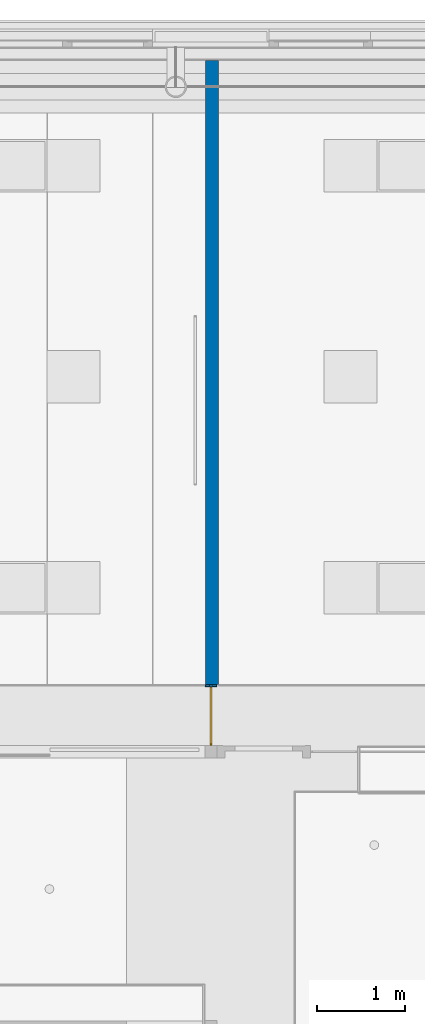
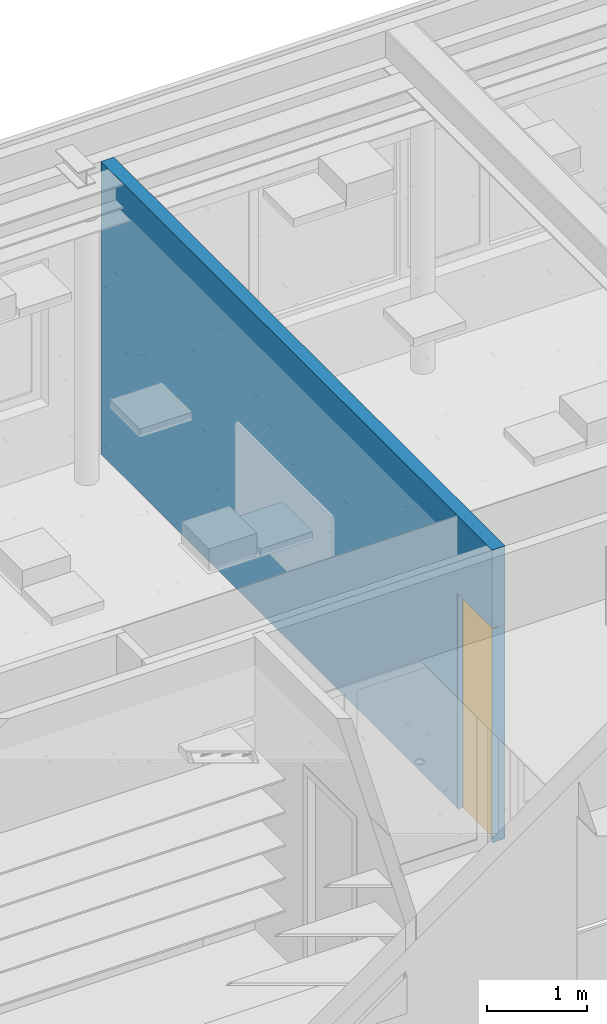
# One storey, part 34 of 260: 2 building element parts, 1 wall, 1 window, 2 openings, 1 element without a shape of its own.
"""IFC2X3 building model written with IfcOpenShell, lengths in millimetres."""

import ifcopenshell
import ifcopenshell.guid

model = None  # the IFC model being written
_history = None  # IfcOwnerHistory: only IFC2X3 demands one
_inside = {}  # id of a spatial element -> (the spatial element, [elements in it])
_under = {}  # id of a project, library or spatial element -> (it, [spatial elements below it])
_declared = {}  # id of a project -> (the project, [libraries it declares])
_typed = {}  # id of a type object -> (the type object, [elements of that type])
_made_of = {}  # id of a material, layer set ... -> (it, [elements and type objects made of it])


def new_model(schema):
    """Start an empty IFC model of exactly this schema.

    Asked for "IFC4X3", IfcOpenShell would pick the latest addendum, in which some entities
    have other attributes; the version numbers below select the first issue.
    IFC2X3 requires an IfcOwnerHistory on every rooted entity: one is made here for all.
    """
    global model, _history
    if schema == "IFC4X3":
        model = ifcopenshell.file(schema_version=(4, 3, 0, 0))
    else:
        model = ifcopenshell.file(schema=schema)
    _inside.clear()
    _under.clear()
    _declared.clear()
    _typed.clear()
    _made_of.clear()
    _history = None
    if model.schema == "IFC2X3":
        org = make("IfcOrganization", Name="unknown")
        user = make(
            "IfcPersonAndOrganization",
            ThePerson=make("IfcPerson", FamilyName="unknown"),
            TheOrganization=org,
        )
        app = make(
            "IfcApplication",
            ApplicationDeveloper=org,
            Version="unknown",
            ApplicationFullName="unknown",
            ApplicationIdentifier="unknown",
        )
        _history = make(
            "IfcOwnerHistory",
            OwningUser=user,
            OwningApplication=app,
            ChangeAction="ADDED",
            CreationDate=0,
        )
    return model


def make(cls, **values):
    """One entity of the class cls with the attributes given. An attribute that is None is left unset."""
    return model.create_entity(
        cls, **{name: value for name, value in values.items() if value is not None}
    )


def entity(cls, *values):
    """Any entity or typed value of the class cls, its attributes in the order of the schema. None: left unset."""
    e = model.create_entity(cls)
    for i, value in enumerate(values):
        if value is not None:
            e[i] = value
    return e


def rooted(cls, **values):
    """An entity with a GlobalId (a new one), such as an element, a storey or a relation."""
    return make(cls, GlobalId=ifcopenshell.guid.new(), OwnerHistory=_history, **values)


def si_unit(unit_type, name, prefix=None):
    """IfcSIUnit, for example si_unit("LENGTHUNIT", "METRE", prefix="MILLI")."""
    return make("IfcSIUnit", UnitType=unit_type, Prefix=prefix, Name=name)


def converted_unit(unit_type, name, factor, base, dimensions=None, offset=None):
    """IfcConversionBasedUnit, such as the inch: factor (a typed value) times the base unit."""
    return make(
        "IfcConversionBasedUnit"
        if offset is None
        else "IfcConversionBasedUnitWithOffset",
        ConversionOffset=offset,
        Dimensions=None
        if dimensions is None
        else entity("IfcDimensionalExponents", *dimensions),
        UnitType=unit_type,
        Name=name,
        ConversionFactor=make(
            "IfcMeasureWithUnit", ValueComponent=factor, UnitComponent=base
        ),
    )


def derived_unit(unit_type, elements):
    """IfcDerivedUnit: a product of units, each with its exponent."""
    return make(
        "IfcDerivedUnit",
        Elements=[
            make("IfcDerivedUnitElement", Unit=unit, Exponent=power)
            for unit, power in elements
        ],
        UnitType=unit_type,
    )


def money_unit(currency):
    """IfcMonetaryUnit."""
    return make("IfcMonetaryUnit", Currency=currency)


def assignment(units):
    """IfcUnitAssignment: the units of a project."""
    return None if units is None else make("IfcUnitAssignment", Units=units)


def point(xyz):
    """IfcCartesianPoint."""
    return None if xyz is None else make("IfcCartesianPoint", Coordinates=xyz)


def direction(xyz):
    """IfcDirection."""
    return None if xyz is None else make("IfcDirection", DirectionRatios=xyz)


def frame(location, z_axis=None, x_axis=None):
    """IfcAxis2Placement3D, a coordinate frame: its origin and axes. An axis left out is left unset."""
    return make(
        "IfcAxis2Placement3D",
        Location=point(location),
        Axis=direction(z_axis),
        RefDirection=direction(x_axis),
    )


def origin_with_axes():
    """The frame at (0, 0, 0) with the z axis (0, 0, 1) and the x axis (1, 0, 0) written out."""
    return frame((0.0, 0.0, 0.0), z_axis=(0.0, 0.0, 1.0), x_axis=(1.0, 0.0, 0.0))


def place(relative_to, where):
    """IfcLocalPlacement: puts the frame where relative to a parent placement (None: the world)."""
    return make(
        "IfcLocalPlacement", PlacementRelTo=relative_to, RelativePlacement=where
    )


def context(
    kind, dimensions, precision=None, world=None, true_north=None, identifier=None
):
    """IfcGeometricRepresentationContext, for example the 3D "Model" context."""
    return make(
        "IfcGeometricRepresentationContext",
        ContextIdentifier=identifier,
        ContextType=kind,
        CoordinateSpaceDimension=dimensions,
        Precision=precision,
        WorldCoordinateSystem=world,
        TrueNorth=true_north,
    )


def subcontext(parent, identifier, kind, view, scale=None):
    """IfcGeometricRepresentationSubContext, for example "Body" below "Model"."""
    return make(
        "IfcGeometricRepresentationSubContext",
        ContextIdentifier=identifier,
        ContextType=kind,
        ParentContext=parent,
        TargetScale=scale,
        TargetView=view,
    )


def project(units=None, contexts=None):
    """IfcProject with its units and contexts."""
    return rooted(
        "IfcProject",
        Name="project",
        RepresentationContexts=contexts,
        UnitsInContext=assignment(units),
    )


def spatial(cls, under=None, at=None, **own):
    """A site, building, storey or space (cls), placed at a placement, below another one or the project."""
    s = rooted(cls, ObjectPlacement=at, **own)
    if under is not None:
        _under.setdefault(under.id(), (under, []))[1].append(s)
    return s


def faces_of(points, faces, orient=None, outer=None):
    """IfcFace entities. A face is a list of loops; a loop is a list of indices into points, from 0.

    orient and outer hold one flag for each loop. By default every Orientation is true, the
    first loop of a face is its IfcFaceOuterBound and the others are IfcFaceBound.
    """
    made = []
    for i, loops in enumerate(faces):
        bounds = []
        for j, loop in enumerate(loops):
            is_outer = j == 0 if outer is None else outer[i][j]
            bounds.append(
                make(
                    "IfcFaceOuterBound" if is_outer else "IfcFaceBound",
                    Bound=make("IfcPolyLoop", Polygon=[points[k] for k in loop]),
                    Orientation=True if orient is None else orient[i][j],
                )
            )
        made.append(make("IfcFace", Bounds=bounds))
    return made


def open_shell(faces, orient=None, outer=None):
    """The faces of one IfcOpenShell. surface_model builds it on its shared points."""
    return ("IfcOpenShell", faces, orient, outer)


def faceted_brep(points, faces, orient=None, outer=None, voids=None):
    """IfcFacetedBrep: a solid bounded by flat faces; with voids (closed shells), ...WithVoids."""
    shared = [point(p) for p in points]
    hull = make("IfcClosedShell", CfsFaces=faces_of(shared, faces, orient, outer))
    if voids is None:
        return make("IfcFacetedBrep", Outer=hull)
    return make(
        "IfcFacetedBrepWithVoids",
        Outer=hull,
        Voids=[
            make(cls, CfsFaces=faces_of(shared, fs, o, b)) for cls, fs, o, b in voids
        ],
    )


def surface_model(cls, points, shells):
    """IfcFaceBasedSurfaceModel or IfcShellBasedSurfaceModel (cls): surfaces that need not close."""
    shared = [point(p) for p in points]
    made = [make(c, CfsFaces=faces_of(shared, fs, o, b)) for c, fs, o, b in shells]
    if cls == "IfcFaceBasedSurfaceModel":
        return make(cls, FbsmFaces=made)
    return make(cls, SbsmBoundary=made)


def shape(context_of_items, identifier, shape_type, items):
    """IfcShapeRepresentation: the items that make up one representation, for example the "Body"."""
    return make(
        "IfcShapeRepresentation",
        ContextOfItems=context_of_items,
        RepresentationIdentifier=identifier,
        RepresentationType=shape_type,
        Items=items,
    )


def source(mapping_origin, context_of_items, identifier, shape_type, items):
    """IfcRepresentationMap: a shape defined once, which mapped items show again and again."""
    return make(
        "IfcRepresentationMap",
        MappingOrigin=mapping_origin,
        MappedRepresentation=shape(context_of_items, identifier, shape_type, items),
    )


def transform(
    local_origin,
    x_axis=None,
    y_axis=None,
    z_axis=None,
    scale=None,
    scale2=None,
    scale3=None,
    uniform=True,
):
    """IfcCartesianTransformationOperator3D, or its non-uniform kind. x_axis, y_axis, z_axis: its Axis1, 2, 3."""
    if uniform:
        return make(
            "IfcCartesianTransformationOperator3D",
            Axis1=direction(x_axis),
            Axis2=direction(y_axis),
            LocalOrigin=point(local_origin),
            Scale=scale,
            Axis3=direction(z_axis),
        )
    return make(
        "IfcCartesianTransformationOperator3DnonUniform",
        Axis1=direction(x_axis),
        Axis2=direction(y_axis),
        LocalOrigin=point(local_origin),
        Scale=scale,
        Axis3=direction(z_axis),
        Scale2=scale2,
        Scale3=scale3,
    )


def mapped(mapping_source, mapping_target):
    """IfcMappedItem: shows the shape of a source again, moved by a transform."""
    return make(
        "IfcMappedItem", MappingSource=mapping_source, MappingTarget=mapping_target
    )


def material(Name=None, Category=None):
    """IfcMaterial."""
    return make("IfcMaterial", Name=Name, Category=Category)


def made_of(thing, what):
    """Note that an element or type object is made of a material, layer set ...; save() writes the relation."""
    if what is not None:
        _made_of.setdefault(what.id(), (what, []))[1].append(thing)
    return thing


def type_object(cls, material=None, **own):
    """A type object (cls), such as IfcWallType, which elements share."""
    return made_of(rooted(cls, **own), material)


def element(
    cls,
    number,
    at=None,
    inside=None,
    cuts=None,
    type_object=None,
    material=None,
    context=None,
    identifier="Body",
    shape_type=None,
    held_by="IfcProductDefinitionShape",
    body=None,
    shapes=None,
    **own,
):
    """One element of the class cls, such as IfcWall. Its Tag is "e" and its number.

    at: its placement. inside: the storey or other place that contains it. cuts: it is an
    opening in that element (IfcRelVoidsElement). A single representation is given by context,
    identifier, shape_type and body (its items); several are given by shapes. held_by: the class
    of the entity that holds the representations. save() writes the other relations.
    """
    e = rooted(cls, Tag="e%d" % number, ObjectPlacement=at, **own)
    if body is not None:
        shapes = [shape(context, identifier, shape_type, body)]
    if shapes is not None:
        e.Representation = make(held_by, Representations=shapes)
    if inside is not None:
        _inside.setdefault(inside.id(), (inside, []))[1].append(e)
    if cuts is not None:
        rooted(
            "IfcRelVoidsElement", RelatingBuildingElement=cuts, RelatedOpeningElement=e
        )
    if type_object is not None:
        _typed.setdefault(type_object.id(), (type_object, []))[1].append(e)
    return made_of(e, material)


def fill(opening, filler):
    """IfcRelFillsElement: the door or window that sits in an opening."""
    return rooted(
        "IfcRelFillsElement",
        RelatingOpeningElement=opening,
        RelatedBuildingElement=filler,
    )


def aggregate(whole, parts):
    """IfcRelAggregates: a whole, such as a stair, and the parts it consists of."""
    return rooted("IfcRelAggregates", RelatingObject=whole, RelatedObjects=parts)


def save(model, path):
    """Write the relations noted so far, then the file.

    IfcRelAggregates (storeys below a building ...), IfcRelContainedInSpatialStructure (elements
    in a storey), IfcRelDefinesByType, IfcRelAssociatesMaterial and IfcRelDeclares: one each for
    every whole, place, type object, material and project.
    """
    for whole, parts in _under.values():
        aggregate(whole, parts)
    for where, things in _inside.values():
        rooted(
            "IfcRelContainedInSpatialStructure",
            RelatedElements=things,
            RelatingStructure=where,
        )
    for kind, things in _typed.values():
        rooted("IfcRelDefinesByType", RelatedObjects=things, RelatingType=kind)
    for what, things in _made_of.values():
        rooted("IfcRelAssociatesMaterial", RelatedObjects=things, RelatingMaterial=what)
    for by, libraries in _declared.values():
        rooted("IfcRelDeclares", RelatingContext=by, RelatedDefinitions=libraries)
    model.write(path)


model = new_model("IFC2X3")

# Units and contexts
model_context = context("Model", 3, precision=0.01, world=origin_with_axes(), true_north=direction((0.0, 1.0)))
plan_context = context("Plan", 3, precision=0.01, world=origin_with_axes(), true_north=direction((0.0, 1.0)))
body_context = subcontext(model_context, "Body", "Model", "MODEL_VIEW")
ifc_project = project(units=[si_unit("LENGTHUNIT", "METRE", prefix="MILLI"), si_unit("AREAUNIT", "SQUARE_METRE"), si_unit("VOLUMEUNIT", "CUBIC_METRE"), converted_unit("PLANEANGLEUNIT", "DEGREE", entity("IfcPlaneAngleMeasure", 0.0174532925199), si_unit("PLANEANGLEUNIT", "RADIAN"), dimensions=[0, 0, 0, 0, 0, 0, 0]), money_unit("EUR"), converted_unit("TIMEUNIT", "Year", entity("IfcTimeMeasure", 31556926.0), si_unit("TIMEUNIT", "SECOND"), dimensions=[0, 0, 1, 0, 0, 0, 0]), si_unit("MASSUNIT", "GRAM", prefix="KILO"), si_unit("THERMODYNAMICTEMPERATUREUNIT", "DEGREE_CELSIUS"), si_unit("LUMINOUSINTENSITYUNIT", "LUMEN"), si_unit("ENERGYUNIT", "JOULE", prefix="MEGA"), derived_unit("THERMALCONDUCTANCEUNIT", [(si_unit("POWERUNIT", "WATT"), 1), (si_unit("LENGTHUNIT", "METRE"), -1), (si_unit("THERMODYNAMICTEMPERATUREUNIT", "KELVIN"), -1)]), derived_unit("SPECIFICHEATCAPACITYUNIT", [(si_unit("ENERGYUNIT", "JOULE"), 1), (si_unit("MASSUNIT", "GRAM", prefix="KILO"), -1), (si_unit("THERMODYNAMICTEMPERATUREUNIT", "KELVIN"), -1)]), derived_unit("MASSDENSITYUNIT", [(si_unit("MASSUNIT", "GRAM", prefix="KILO"), 1), (si_unit("VOLUMEUNIT", "CUBIC_METRE"), -1)])], contexts=[model_context, plan_context])

# Site, building, storey
site_placement = place(None, origin_with_axes())
site = spatial("IfcSite", under=ifc_project, at=site_placement, Name="Site", CompositionType="ELEMENT")
building_placement = place(site_placement, origin_with_axes())
building = spatial("IfcBuilding", under=site, at=building_placement, Name="Naam gebouw", CompositionType="ELEMENT")
storey_placement = place(building_placement, frame((0.0, 0.0, 3960.0), z_axis=(0.0, 0.0, 1.0), x_axis=(1.0, 0.0, 0.0)))
storey = spatial("IfcBuildingStorey", under=building, at=storey_placement, Name="verdieping", CompositionType="ELEMENT", Elevation=3960.0)

# Wall, openings, windows, building element parts
ifc_material_1 = material(Name="ALG - LICHTE SCHEIDINGSWAND")
wall_type = type_object("IfcWallType", Name="ALG LSW 150 150", PredefinedType="NOTDEFINED")
wall_placement = place(storey_placement, frame((32075.0, 39025.0, 0.0), z_axis=(0.0, 0.0, 1.0), x_axis=(0.0, 1.0, 0.0)))
wall = element("IfcWall", 1, at=wall_placement, inside=storey, type_object=wall_type, material=ifc_material_1, Name="22_GF 125 ECO DGS/2.75.2A", context=body_context, shape_type="Brep", body=[
    faceted_brep([(762.5, 0.0, 2600.0), (762.5, -150.0, 2600.0), (762.499907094, -150.0, 2612.0), (762.499907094, 0.0, 2612.0), (762.5, 0.0, 0.0), (762.5, -150.0, 0.0), (7862.0, -150.0, 0.0), (7861.99999747, -150.0, 3200.0), (7261.99995163, -150.0, 3200.0), (7261.99995163, -150.0, 3212.0), (7861.99999747, -150.0, 3212.0), (7862.0, -150.0, 3560.0), (62.5, -150.0, 3560.0), (62.5, -150.0, 2612.0), (62.5, 0.0, 2612.0), (62.5, 0.0, 3560.0), (7862.0, 0.0, 3560.0), (7862.0, 0.0, 0.0), (7861.99999747, -125.0, 3200.0), (7861.99999747, -125.0, 3212.0), (7261.99995163, -125.0, 3200.0), (7261.99995163, -125.0, 3212.0)], [[[0, 1, 2, 3]], [[4, 5, 1, 0]], [[2, 1, 5, 6, 7, 8, 9, 10, 11, 12, 13]], [[2, 13, 14, 3]], [[14, 15, 16, 17, 4, 0, 3]], [[6, 5, 4, 17]], [[18, 7, 6, 17, 16, 11, 10, 19]], [[8, 7, 18, 20]], [[9, 8, 20, 21]], [[19, 10, 9, 21]], [[12, 11, 16, 15]], [[14, 13, 12, 15]], [[18, 19, 21, 20]]]),
    faceted_brep([(62.5, -150.0, 0.0), (69.5, -150.0, 0.0), (69.5, -150.0, 2600.0), (62.5, -150.0, 2600.0), (69.5, 0.0, 0.0), (62.5, 0.0, 0.0), (69.5, 0.0, 2600.0), (62.5, 0.0, 2600.0)], [[[0, 1, 2, 3]], [[4, 1, 0, 5]], [[6, 2, 1, 4]], [[3, 2, 6, 7]], [[3, 7, 5, 0]], [[6, 4, 5, 7]]]),
])
opening_1_placement = place(wall_placement, frame((416.0, 0.0, 0.0), z_axis=(0.0, 0.0, 1.0), x_axis=(1.0, 0.0, 0.0)))
opening_1 = element("IfcOpeningElement", 2, at=opening_1_placement, cuts=wall, Name="32_10.04", context=body_context, shape_type="Brep", body=[
    faceted_brep([(346.5, -300.0, 2600.0), (346.5, -300.0, 0.0), (346.5, -52.5, 0.0), (346.5, -52.5, 2600.0), (-346.5, -300.0, 2600.0), (-346.5, -300.0, 0.0), (-346.5, -52.5, 0.0), (-346.5, -52.5, 2600.0)], [[[0, 1, 2, 3]], [[0, 4, 5, 1]], [[1, 5, 6, 2]], [[3, 2, 6, 7]], [[4, 0, 3, 7]], [[5, 4, 7, 6]]]),
    faceted_brep([(346.5, 150.0, 0.0), (346.5, 150.0, 2600.0), (346.5, -52.5, 2600.0), (346.5, -52.5, 0.0), (-346.5, 150.0, 0.0), (-346.5, 150.0, 2600.0), (-346.5, -52.5, 2600.0), (-346.5, -52.5, 0.0)], [[[0, 1, 2, 3]], [[0, 4, 5, 1]], [[1, 5, 6, 2]], [[3, 2, 6, 7]], [[4, 0, 3, 7]], [[5, 4, 7, 6]]]),
])
opening_2_placement = place(wall_placement, frame((750.0, 0.0, 0.0), z_axis=(0.0, 0.0, 1.0), x_axis=(1.0, 0.0, 0.0)))
opening_2 = element("IfcOpeningElement", 3, at=opening_2_placement, cuts=wall, Name="31_-", context=body_context, shape_type="Brep", body=[
    faceted_brep([(12.5, 150.0, 0.0), (12.5, 150.0, 2600.0), (12.5, -50.0, 2600.0), (12.5, -50.0, 0.0), (-12.5, 150.0, 0.0), (-12.5, 150.0, 2600.0), (-12.5, -50.0, 2600.0), (-12.5, -50.0, 0.0)], [[[0, 1, 2, 3]], [[0, 4, 5, 1]], [[1, 5, 6, 2]], [[3, 2, 6, 7]], [[4, 0, 3, 7]], [[5, 4, 7, 6]]]),
    faceted_brep([(12.5, -250.0, 2600.0), (12.5, -250.0, 0.0), (12.5, -50.0, 0.0), (12.5, -50.0, 2600.0), (-12.5, -250.0, 2600.0), (-12.5, -250.0, 0.0), (-12.5, -50.0, 0.0), (-12.5, -50.0, 2600.0)], [[[0, 1, 2, 3]], [[0, 4, 5, 1]], [[1, 5, 6, 2]], [[3, 2, 6, 7]], [[4, 0, 3, 7]], [[5, 4, 7, 6]]]),
])
window_style_1 = type_object("IfcWindowStyle", Name="R1 25", ConstructionType="NOTDEFINED", OperationType="SINGLE_PANEL", ParameterTakesPrecedence=False, Sizeable=False)
window_1_placement = place(opening_1_placement, frame((-346.5, 0.0, 0.0), z_axis=(0.0, 0.0, 1.0), x_axis=(1.0, 0.0, 0.0)))
window_1 = element("IfcWindow", 4, at=window_1_placement, inside=storey, type_object=window_style_1, Name="32_10.04", ObjectType="WINDOW", OverallHeight=2600.0, OverallWidth=693.0, context=body_context, shape_type="SurfaceModel", body=[
    faceted_brep([(20.0, -72.5, 2580.0), (20.0, -52.5, 2580.0), (0.0, -52.5, 2580.0), (0.0, -72.5, 2580.0), (20.0, -72.5, 20.0), (20.0, -52.5, 20.0), (0.0, -52.5, 20.0), (0.0, -72.5, 20.0)], [[[0, 1, 2, 3]], [[4, 5, 1, 0]], [[1, 5, 6, 2]], [[3, 2, 6, 7]], [[0, 3, 7, 4]], [[7, 6, 5, 4]]]),
    faceted_brep([(673.0, -72.5, 20.0), (673.0, -52.5, 20.0), (693.0, -52.5, 20.0), (693.0, -72.5, 20.0), (673.0, -72.5, 2580.0), (673.0, -52.5, 2580.0), (693.0, -52.5, 2580.0), (693.0, -72.5, 2580.0)], [[[0, 1, 2, 3]], [[4, 5, 1, 0]], [[1, 5, 6, 2]], [[3, 2, 6, 7]], [[0, 3, 7, 4]], [[7, 6, 5, 4]]]),
    faceted_brep([(20.0, -72.5, 20.0), (20.0, -52.5, 20.0), (0.0, -52.5, 20.0), (0.0, -72.5, 20.0), (673.0, -72.5, 20.0), (673.0, -52.5, 20.0), (693.0, -52.5, 20.0), (693.0, -52.5, 0.0), (0.0, -52.5, 0.0), (0.0, -72.5, 0.0), (693.0, -72.5, 0.0), (693.0, -72.5, 20.0)], [[[0, 1, 2, 3]], [[4, 5, 1, 0]], [[1, 5, 6, 7, 8, 2]], [[3, 2, 8, 9]], [[0, 3, 9, 10, 11, 4]], [[11, 6, 5, 4]], [[10, 7, 6, 11]], [[9, 8, 7, 10]]]),
    faceted_brep([(673.0, -72.5, 2580.0), (673.0, -52.5, 2580.0), (693.0, -52.5, 2580.0), (693.0, -72.5, 2580.0), (20.0, -72.5, 2580.0), (20.0, -52.5, 2580.0), (0.0, -52.5, 2580.0), (0.0, -52.5, 2600.0), (693.0, -52.5, 2600.0), (693.0, -72.5, 2600.0), (0.0, -72.5, 2600.0), (0.0, -72.5, 2580.0)], [[[0, 1, 2, 3]], [[4, 5, 1, 0]], [[1, 5, 6, 7, 8, 2]], [[3, 2, 8, 9]], [[0, 3, 9, 10, 11, 4]], [[11, 6, 5, 4]], [[10, 7, 6, 11]], [[9, 8, 7, 10]]]),
    surface_model("IfcShellBasedSurfaceModel", [(20.0, -72.5, 20.0), (673.0, -72.5, 20.0), (673.0, -72.5, 2580.0), (20.0, -72.5, 2580.0)], [open_shell([[[0, 1, 2, 3]]])]),
    surface_model("IfcShellBasedSurfaceModel", [(20.0, -52.5, 20.0), (20.0, -52.5, 2580.0), (673.0, -52.5, 2580.0), (673.0, -52.5, 20.0)], [open_shell([[[0, 1, 2, 3]]])]),
])
fill(opening_1, window_1)
window_style_2 = type_object("IfcWindowStyle", Name="32 glaslatten 125mm wand", ConstructionType="NOTDEFINED", OperationType="NOTDEFINED", ParameterTakesPrecedence=False, Sizeable=False)
window_2_placement = place(opening_2_placement, frame((-12.5, 0.0, 0.0), z_axis=(0.0, 0.0, 1.0), x_axis=(1.0, 0.0, 0.0)))
window_2 = element("IfcWindow", 5, at=window_2_placement, inside=storey, type_object=window_style_2, Name="31_-", ObjectType="WINDOW", OverallHeight=2600.0, OverallWidth=25.0)
fill(opening_2, window_2)
ifc_material_2 = material(Name="32 Hout binnenkozijn")
shared_shape_1 = source(origin_with_axes(), body_context, "Body", "Brep", [
    faceted_brep([(-12.5, -77.0, 2600.0), (-12.5, -77.0, 0.0), (12.5, -77.0, 0.0), (12.5, -77.0, 2600.0), (-12.5, -25.0, 2600.0), (-12.5, -25.0, 0.0), (12.5, -25.0, 0.0), (12.5, -25.0, 2600.0)], [[[0, 1, 2, 3]], [[4, 5, 1, 0]], [[1, 5, 6, 2]], [[3, 2, 6, 7]], [[0, 3, 7, 4]], [[7, 6, 5, 4]]]),
    faceted_brep([(-12.5, 0.0, 2600.0), (-12.5, 0.0, 0.0), (12.5, 0.0, 0.0), (12.5, 0.0, 2600.0), (-12.5, 52.0, 2600.0), (-12.5, 52.0, 0.0), (12.5, 52.0, 0.0), (12.5, 52.0, 2600.0)], [[[0, 1, 2, 3]], [[4, 5, 1, 0]], [[1, 5, 6, 2]], [[3, 2, 6, 7]], [[0, 3, 7, 4]], [[7, 6, 5, 4]]]),
])
building_element_part_1_placement = place(window_2_placement, origin_with_axes())
building_element_part_1 = element("IfcBuildingElementPart", 6, at=building_element_part_1_placement, material=ifc_material_2, Name="32 Hout binnenkozijn", context=body_context, shape_type="MappedRepresentation", body=[
    mapped(shared_shape_1, transform((12.5, -50.0, 0.0))),
])
ifc_material_3 = material(Name="Membraan - rubber")
shared_shape_2 = source(origin_with_axes(), body_context, "Body", "Brep", [
    faceted_brep([(-12.5, -25.0, 2600.0), (-12.5, -25.0, 0.0), (12.5, -25.0, 0.0), (12.5, -25.0, 2600.0), (-12.5, 0.0, 2600.0), (-12.5, 0.0, 0.0), (12.5, 0.0, 0.0), (12.5, 0.0, 2600.0)], [[[0, 1, 2, 3]], [[4, 5, 1, 0]], [[1, 5, 6, 2]], [[3, 2, 6, 7]], [[0, 3, 7, 4]], [[7, 6, 5, 4]]]),
])
building_element_part_2_placement = place(window_2_placement, origin_with_axes())
building_element_part_2 = element("IfcBuildingElementPart", 7, at=building_element_part_2_placement, material=ifc_material_3, Name="Membraan - rubber", context=body_context, shape_type="MappedRepresentation", body=[
    mapped(shared_shape_2, transform((12.5, -50.0, 0.0))),
])
aggregate(window_2, [building_element_part_1, building_element_part_2])

save(model, "model.ifc")
